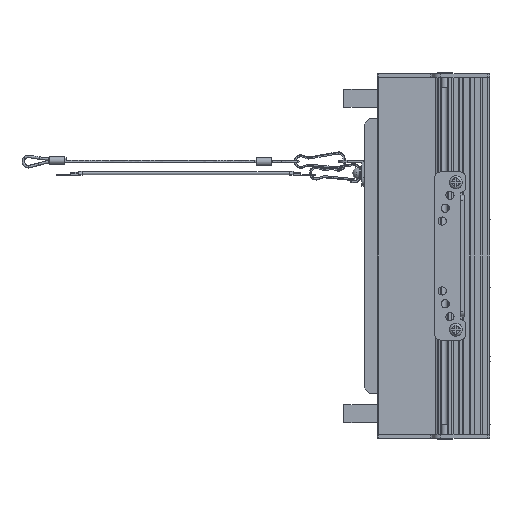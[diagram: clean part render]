
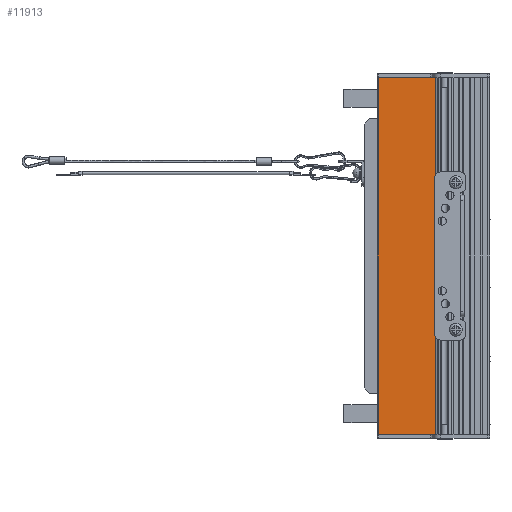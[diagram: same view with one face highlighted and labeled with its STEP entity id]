
A CAD part, left-side view. The second image highlights one B-rep face of the part: STEP entity #11913.
In plain terms, the highlighted planar face has unit normal (-1, 0, 0).
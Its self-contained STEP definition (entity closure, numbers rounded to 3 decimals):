
#11913=ADVANCED_FACE('',(#16268),#15023,.F.);
#15023=PLANE('',#60352);
#16268=FACE_OUTER_BOUND('',#19051,.T.);
#19051=EDGE_LOOP('',(#23337,#23338,#23339,#23340));
#23337=ORIENTED_EDGE('',*,*,#45606,.T.);
#23338=ORIENTED_EDGE('',*,*,#45607,.F.);
#23339=ORIENTED_EDGE('',*,*,#45608,.T.);
#23340=ORIENTED_EDGE('',*,*,#45609,.F.);
#39761=VERTEX_POINT('',#73334);
#39762=VERTEX_POINT('',#73335);
#39763=VERTEX_POINT('',#73337);
#39764=VERTEX_POINT('',#73339);
#45606=EDGE_CURVE('',#39761,#39762,#53975,.T.);
#45607=EDGE_CURVE('',#39763,#39762,#53976,.T.);
#45608=EDGE_CURVE('',#39763,#39764,#53977,.T.);
#45609=EDGE_CURVE('',#39761,#39764,#53978,.T.);
#53975=LINE('',#73333,#57200);
#53976=LINE('',#73336,#57201);
#53977=LINE('',#73338,#57202);
#53978=LINE('',#73340,#57203);
#57200=VECTOR('',#63897,1.);
#57201=VECTOR('',#63898,1.);
#57202=VECTOR('',#63899,1.);
#57203=VECTOR('',#63900,1.);
#60352=AXIS2_PLACEMENT_3D('',#73341,#63901,#63902);
#63897=DIRECTION('',(0.,1.,0.));
#63898=DIRECTION('',(0.,0.,1.));
#63899=DIRECTION('',(0.,-1.,0.));
#63900=DIRECTION('',(0.,0.,-1.));
#63901=DIRECTION('',(1.,0.,0.));
#63902=DIRECTION('',(0.,0.,1.));
#73333=CARTESIAN_POINT('',(1100.17,-498.52,72.));
#73334=CARTESIAN_POINT('',(1100.17,-484.343,72.));
#73335=CARTESIAN_POINT('',(1100.17,-462.232,72.));
#73336=CARTESIAN_POINT('',(1100.17,-462.232,76.));
#73337=CARTESIAN_POINT('',(1100.17,-462.232,-66.));
#73338=CARTESIAN_POINT('',(1100.17,-498.52,-66.));
#73339=CARTESIAN_POINT('',(1100.17,-484.343,-66.));
#73340=CARTESIAN_POINT('',(1100.17,-484.343,76.));
#73341=CARTESIAN_POINT('',(1100.17,-471.343,76.));
